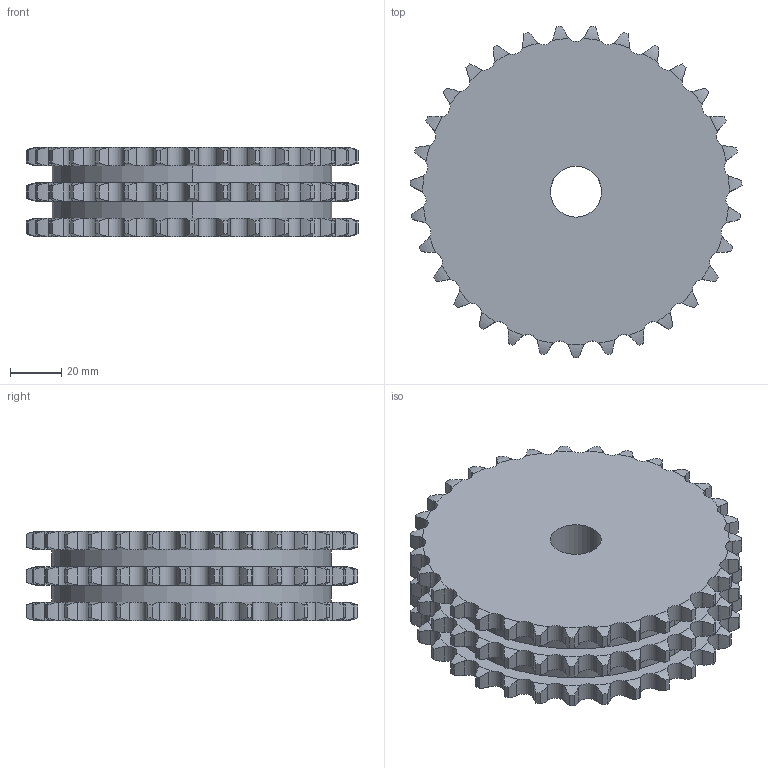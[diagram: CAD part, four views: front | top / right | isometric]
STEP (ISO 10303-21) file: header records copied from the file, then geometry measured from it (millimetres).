
FILE_DESCRIPTION((''),'2;1');
FILE_NAME('500-203-0031_PRT','2021-02-12T',('Brieden'),('Brieden'),'PRO/ENGINEER BY PARAMETRIC TECHNOLOGY CORPORATION, 2010160','PRO/ENGINEER BY PARAMETRIC TECHNOLOGY CORPORATION, 2010160','');
FILE_SCHEMA(('AUTOMOTIVE_DESIGN { 1 0 10303 214 1 1 1 1 }'));
Length unit declared in the file: millimetre
Products named in the file (1): 500-203-0031_PRT
Bounding box: 130.12 x 129.96 x 34.9 mm (x, y, z)
Volume: 369295.7 mm3; surface area: 51506.9 mm2
Topology: 1 solids, 1 shells, 570 faces, 1692 edges, 1128 vertices
Faces by surface type: cylinder 378, torus 186, plane 6
Entity records: 27483 total; most frequent: CARTESIAN_POINT 7968, ORIENTED_EDGE 3384, DIRECTION 2658, PRESENTATION_STYLE_ASSIGNMENT 1693, STYLED_ITEM 1693, CURVE_STYLE 1692, EDGE_CURVE 1692, AXIS2_PLACEMENT_3D 1140
